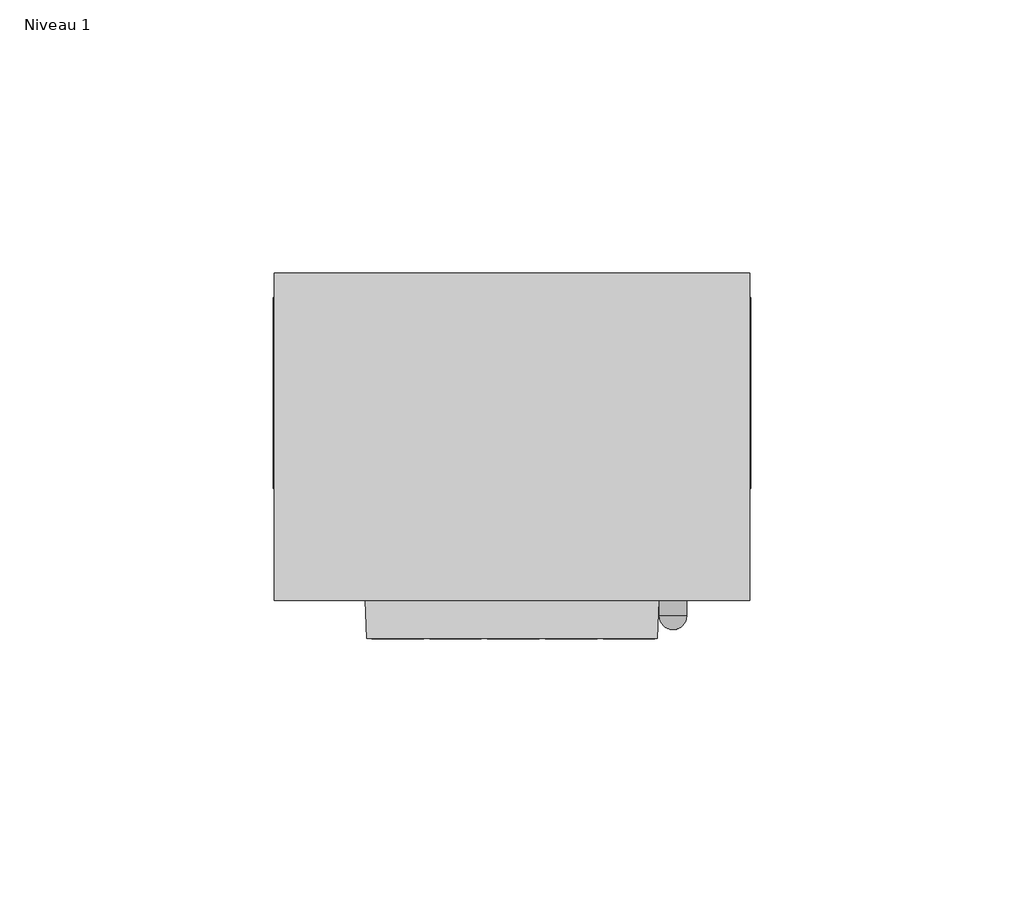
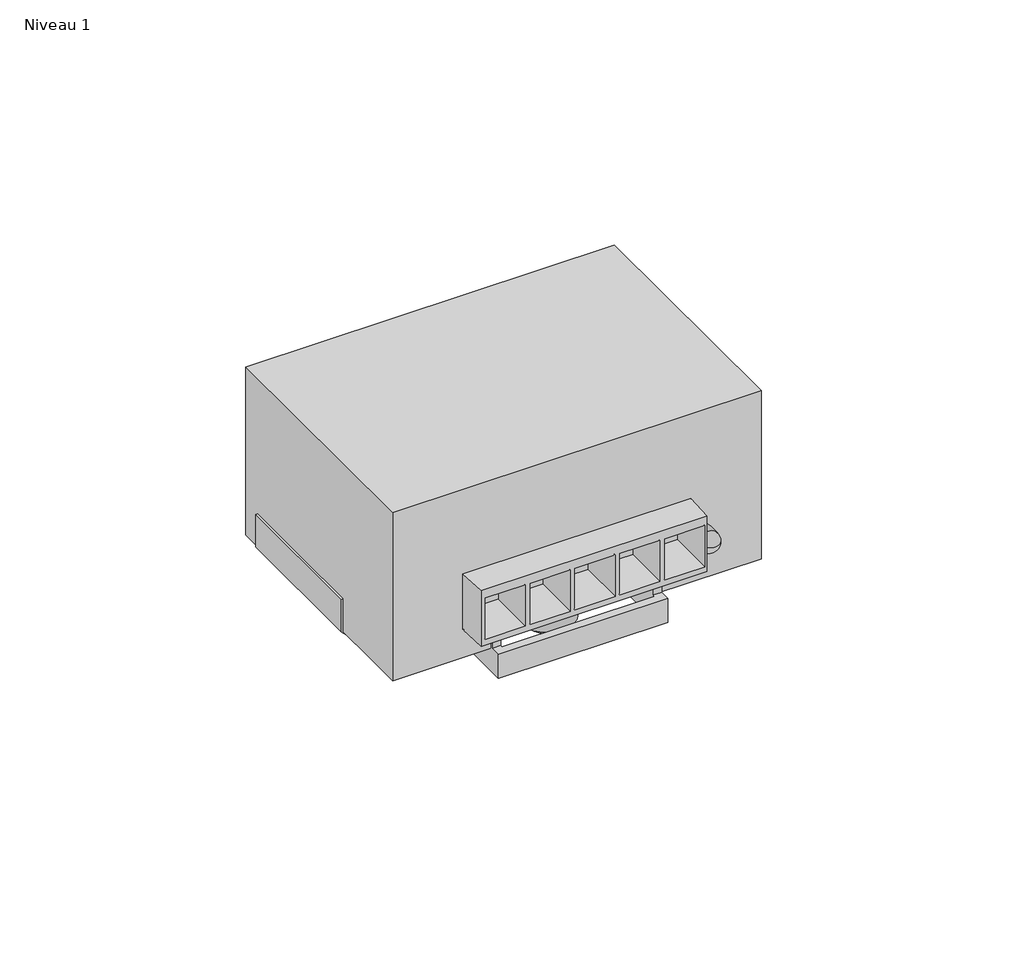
# One storey: 1 proxy.
"""IFC4 building model written with IfcOpenShell, lengths in millimetres."""

from ifc_helpers import new_model, si_unit, origin, place, context, project, spatial, transform, mapped, element, save
from components import electrical_equipment_ec815980

model = new_model("IFC4")

# Units and contexts
model_context = context("Model", 3, world=origin())
ifc_project = project(units=[si_unit("LENGTHUNIT", "METRE", prefix="MILLI")], contexts=[model_context])

# Site, building, storey
site = spatial("IfcSite", under=ifc_project)
building = spatial("IfcBuilding", under=site)
storey = spatial("IfcBuildingStorey", under=building, Name="Niveau 1", Elevation=0.0)

# Proxy
placement = place(None, origin())
electrical_equipment_shape = electrical_equipment_ec815980(model_context)
element("IfcBuildingElementProxy", 1, Name="CONVER MAT 24V 12V 3A 6A : CONVER MAT 24V 12V 3A 6A", ObjectType="CONVER MAT 24V 12V 3A 6A : CONVER MAT 24V 12V 3A 6A", at=placement, inside=storey, context=model_context, shape_type="MappedRepresentation", body=[
    mapped(electrical_equipment_shape, transform((-5984.3648864, 4555.4187321, 0.0), x_axis=(1.0, 0.0, 0.0), y_axis=(0.0, 1.0, 0.0), z_axis=(0.0, 0.0, 1.0))),
])

save(model, "model.ifc")
